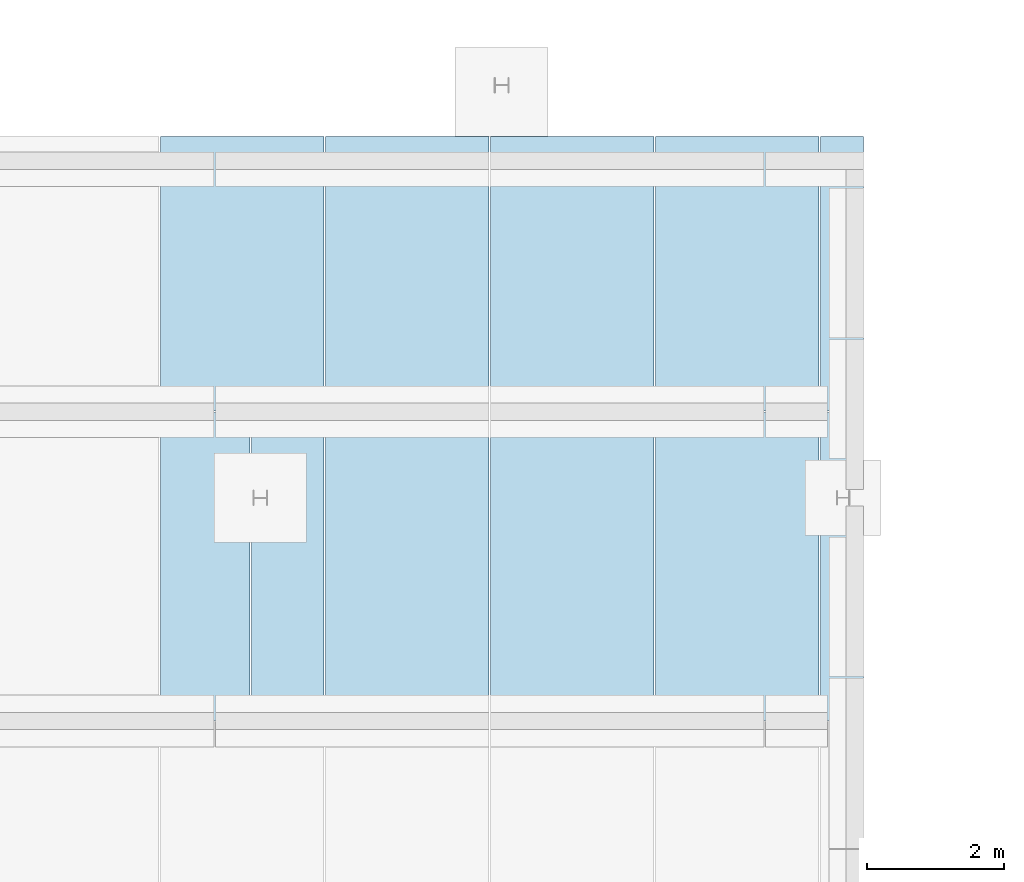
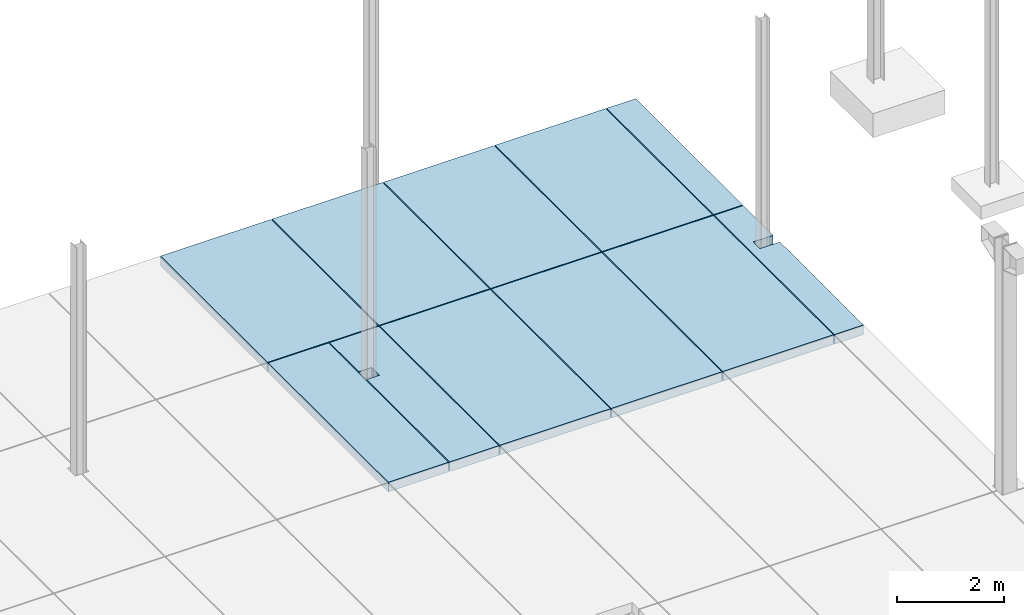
# One storey, part 53 of 59: 11 slabs.
"""IFC2X3 building model written with IfcOpenShell, lengths in metres."""

from ifc_helpers import new_model, entity, si_unit, converted_unit, derived_unit, frame, frame_2d, origin, origin_with_axes, place, context, subcontext, project, spatial, polyline, rectangle, outline, extrude, material, element, save


model = new_model("IFC2X3")

# Units and contexts
model_context = context("Model", 3, precision=1e-05, world=origin())
body_context = subcontext(model_context, "Body", "Model", "MODEL_VIEW")
ifc_project = project(units=[si_unit("LENGTHUNIT", "METRE"), si_unit("AREAUNIT", "SQUARE_METRE"), si_unit("VOLUMEUNIT", "CUBIC_METRE"), si_unit("MASSUNIT", "GRAM", prefix="KILO"), converted_unit("PLANEANGLEUNIT", "DEGREE", entity("IfcPlaneAngleMeasure", 0.0174532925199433), si_unit("PLANEANGLEUNIT", "RADIAN"), dimensions=[0, 0, 0, 0, 0, 0, 0]), derived_unit("THERMALTRANSMITTANCEUNIT", [(si_unit("POWERUNIT", "WATT"), 1), (si_unit("THERMODYNAMICTEMPERATUREUNIT", "KELVIN"), -1), (si_unit("LENGTHUNIT", "METRE"), -2)]), derived_unit("VOLUMETRICFLOWRATEUNIT", [(si_unit("LENGTHUNIT", "METRE"), 3), (converted_unit("TIMEUNIT", "hour", entity("IfcTimeMeasure", 3600.0), si_unit("TIMEUNIT", "SECOND"), dimensions=[0, 0, 1, 0, 0, 0, 0]), -1), (si_unit("LENGTHUNIT", "METRE"), -1)])], contexts=[model_context])

# Site, building, storey
site_placement = place(None, origin())
site = spatial("IfcSite", under=ifc_project, at=site_placement, Name="TWP_Speiseverteilzentrum SBW VZ II", CompositionType="ELEMENT")
building_placement = place(site_placement, origin())
building = spatial("IfcBuilding", under=site, at=building_placement, Name="Speiseverteilzentrum SBW VZ II", CompositionType="ELEMENT")
storey_placement = place(building_placement, frame((0.0, 0.0, 1.7307)))
storey = spatial("IfcBuildingStorey", under=building, at=storey_placement, Name="EG_Produktion_FFB", CompositionType="ELEMENT", Elevation=1.7307)

# Slabs
ifc_material_1 = material(Name="Stahlbetonfertigteil")
slab_1_placement = place(storey_placement, frame((74.3999999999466, 76.3101031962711, -0.47)))
element("IfcSlab", 1, at=slab_1_placement, inside=storey, material=ifc_material_1, Name="Stahlbetonfertigteilplatte", PredefinedType="BASESLAB", context=body_context, shape_type="SweptSolid", body=[
    extrude(outline(polyline([(0.195000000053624, 3.36289945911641), (0.625000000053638, 3.36289945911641), (0.625000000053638, 4.47999999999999), (0.0, 4.47999999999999), (0.0, 0.0), (0.625000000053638, 0.0), (0.625000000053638, 3.11289945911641), (0.195000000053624, 3.11289945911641), (0.195000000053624, 3.36289945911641)])), origin_with_axes(), (0.0, 0.0, 1.0), 0.22),
])
ifc_material_2 = material(Name="Stahlbetonfertigteil")
slab_2_placement = place(storey_placement, frame((64.7999999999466, 76.3101031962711, -0.47)))
element("IfcSlab", 2, at=slab_2_placement, inside=storey, material=ifc_material_2, Name="Stahlbetonfertigteilplatte", PredefinedType="BASESLAB", context=body_context, shape_type="SweptSolid", body=[
    extrude(rectangle(XDim=4.47999999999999, YDim=1.30000000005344, at=frame_2d((0.650000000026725, -2.23999999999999), x_axis=(0.0, -1.0))), frame((0.0, 4.47999999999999, 0.0), z_axis=(0.0, 0.0, 1.0), x_axis=(1.0, 0.0, 0.0)), (0.0, 0.0, 1.0), 0.22),
])
ifc_material_3 = material(Name="Stahlbetonfertigteil")
slab_3_placement = place(storey_placement, frame((66.12, 76.3101031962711, -0.47)))
element("IfcSlab", 3, at=slab_3_placement, inside=storey, material=ifc_material_3, Name="Stahlbetonfertigteilplatte", PredefinedType="BASESLAB", context=body_context, shape_type="SweptSolid", body=[
    extrude(outline(polyline([(0.0, 3.09289945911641), (0.0, 0.0), (1.05999999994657, 0.0), (1.05999999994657, 4.47999999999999), (0.0, 4.47999999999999), (0.0, 3.38289945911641), (0.28, 3.38289945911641), (0.28, 3.09289945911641), (0.0, 3.09289945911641)])), origin_with_axes(), (0.0, 0.0, 1.0), 0.22),
])
ifc_material_4 = material(Name="Stahlbetonfertigteil")
slab_4_placement = place(storey_placement, frame((67.1999999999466, 76.3101031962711, -0.47)))
element("IfcSlab", 4, at=slab_4_placement, inside=storey, material=ifc_material_4, Name="Stahlbetonfertigteilplatte", PredefinedType="BASESLAB", context=body_context, shape_type="SweptSolid", body=[
    extrude(rectangle(XDim=4.47999999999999, YDim=2.38, at=frame_2d((1.19, -2.23999999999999), x_axis=(0.0, -1.0))), frame((0.0, 4.47999999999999, 0.0), z_axis=(0.0, 0.0, 1.0), x_axis=(1.0, 0.0, 0.0)), (0.0, 0.0, 1.0), 0.22),
])
ifc_material_5 = material(Name="Stahlbetonfertigteil")
slab_5_placement = place(storey_placement, frame((69.5999999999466, 76.3101031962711, -0.47)))
element("IfcSlab", 5, at=slab_5_placement, inside=storey, material=ifc_material_5, Name="Stahlbetonfertigteilplatte", PredefinedType="BASESLAB", context=body_context, shape_type="SweptSolid", body=[
    extrude(rectangle(XDim=4.47999999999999, YDim=2.38, at=frame_2d((1.19, -2.23999999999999), x_axis=(0.0, -1.0))), frame((0.0, 4.47999999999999, 0.0), z_axis=(0.0, 0.0, 1.0), x_axis=(1.0, 0.0, 0.0)), (0.0, 0.0, 1.0), 0.22),
])
ifc_material_6 = material(Name="Stahlbetonfertigteil")
slab_6_placement = place(storey_placement, frame((71.9999999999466, 76.3101031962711, -0.47)))
element("IfcSlab", 6, at=slab_6_placement, inside=storey, material=ifc_material_6, Name="Stahlbetonfertigteilplatte", PredefinedType="BASESLAB", context=body_context, shape_type="SweptSolid", body=[
    extrude(rectangle(XDim=4.47999999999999, YDim=2.38, at=frame_2d((1.19, -2.23999999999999), x_axis=(0.0, -1.0))), frame((0.0, 4.47999999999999, 0.0), z_axis=(0.0, 0.0, 1.0), x_axis=(1.0, 0.0, 0.0)), (0.0, 0.0, 1.0), 0.22),
])
ifc_material_7 = material(Name="Stahlbetonfertigteil")
slab_7_placement = place(storey_placement, frame((74.3999999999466, 80.8101031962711, -0.47)))
element("IfcSlab", 7, at=slab_7_placement, inside=storey, material=ifc_material_7, Name="Stahlbetonfertigteilplatte", PredefinedType="BASESLAB", context=body_context, shape_type="SweptSolid", body=[
    extrude(rectangle(XDim=3.98989680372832, YDim=0.625000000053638, at=frame_2d((0.312500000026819, -1.99494840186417), x_axis=(0.0, -1.0))), frame((0.0, 3.98989680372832, 0.0), z_axis=(0.0, 0.0, 1.0), x_axis=(1.0, 0.0, 0.0)), (0.0, 0.0, 1.0), 0.22),
])
ifc_material_8 = material(Name="Stahlbetonfertigteil")
slab_8_placement = place(storey_placement, frame((69.5999999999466, 80.8101031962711, -0.47)))
element("IfcSlab", 8, at=slab_8_placement, inside=storey, material=ifc_material_8, Name="Stahlbetonfertigteilplatte", PredefinedType="BASESLAB", context=body_context, shape_type="SweptSolid", body=[
    extrude(rectangle(XDim=3.98989680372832, YDim=2.38, at=frame_2d((1.19, -1.99494840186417), x_axis=(0.0, -1.0))), frame((0.0, 3.98989680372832, 0.0), z_axis=(0.0, 0.0, 1.0), x_axis=(1.0, 0.0, 0.0)), (0.0, 0.0, 1.0), 0.22),
])
ifc_material_9 = material(Name="Stahlbetonfertigteil")
slab_9_placement = place(storey_placement, frame((71.9999999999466, 80.8101031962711, -0.47)))
element("IfcSlab", 9, at=slab_9_placement, inside=storey, material=ifc_material_9, Name="Stahlbetonfertigteilplatte", PredefinedType="BASESLAB", context=body_context, shape_type="SweptSolid", body=[
    extrude(rectangle(XDim=3.98989680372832, YDim=2.38, at=frame_2d((1.19, -1.99494840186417), x_axis=(0.0, -1.0))), frame((0.0, 3.98989680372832, 0.0), z_axis=(0.0, 0.0, 1.0), x_axis=(1.0, 0.0, 0.0)), (0.0, 0.0, 1.0), 0.22),
])
ifc_material_10 = material(Name="Stahlbetonfertigteil")
slab_10_placement = place(storey_placement, frame((64.7999999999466, 80.8101031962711, -0.47)))
element("IfcSlab", 10, at=slab_10_placement, inside=storey, material=ifc_material_10, Name="Stahlbetonfertigteilplatte", PredefinedType="BASESLAB", context=body_context, shape_type="SweptSolid", body=[
    extrude(rectangle(XDim=3.98989680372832, YDim=2.38000000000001, at=frame_2d((1.19000000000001, -1.99494840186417), x_axis=(0.0, -1.0))), frame((0.0, 3.98989680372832, 0.0), z_axis=(0.0, 0.0, 1.0), x_axis=(1.0, 0.0, 0.0)), (0.0, 0.0, 1.0), 0.22),
])
ifc_material_11 = material(Name="Stahlbetonfertigteil")
slab_11_placement = place(storey_placement, frame((67.1999999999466, 80.8101031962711, -0.47)))
element("IfcSlab", 11, at=slab_11_placement, inside=storey, material=ifc_material_11, Name="Stahlbetonfertigteilplatte", PredefinedType="BASESLAB", context=body_context, shape_type="SweptSolid", body=[
    extrude(rectangle(XDim=3.98989680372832, YDim=2.38, at=frame_2d((1.19, -1.99494840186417), x_axis=(0.0, -1.0))), frame((0.0, 3.98989680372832, 0.0), z_axis=(0.0, 0.0, 1.0), x_axis=(1.0, 0.0, 0.0)), (0.0, 0.0, 1.0), 0.22),
])

save(model, "model.ifc")
